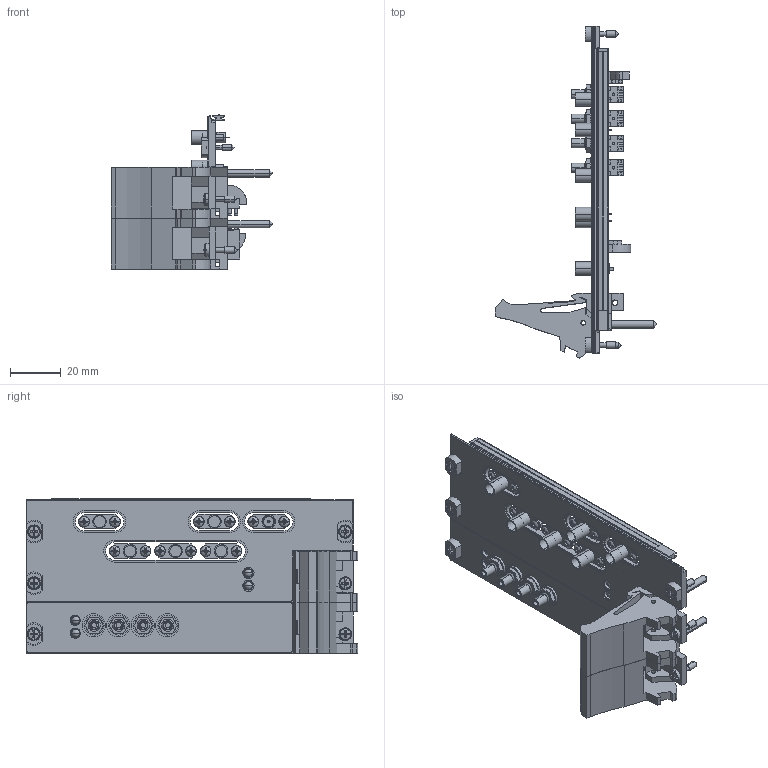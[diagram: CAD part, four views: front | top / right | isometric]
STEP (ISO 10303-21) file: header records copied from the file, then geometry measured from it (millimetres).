
FILE_DESCRIPTION((''),'2;1');
FILE_NAME('CU_PXIE-5672','2009-12-31T',('jjorden'),(''),'PRO/ENGINEER BY PARAMETRIC TECHNOLOGY CORPORATION, 2006080','PRO/ENGINEER BY PARAMETRIC TECHNOLOGY CORPORATION, 2006080','');
FILE_SCHEMA(('CONFIG_CONTROL_DESIGN'));
Products named in the file (1): CU_PXIE-5672
Bounding box: 63.65 x 130.52 x 60.65 mm (x, y, z)
Volume: 40496.2 mm3; surface area: 40774.6 mm2
Topology: 11 solids, 11 shells, 2195 faces, 5778 edges, 3428 vertices
Faces by surface type: plane 1334, cylinder 485, bspline 240, cone 56, sphere 44, torus 36
Entity records: 71600 total; most frequent: CARTESIAN_POINT 19196, ORIENTED_EDGE 11036, DIRECTION 10429, EDGE_CURVE 5518, VERTEX_POINT 3656, VECTOR 3525, LINE 3525, AXIS2_PLACEMENT_3D 3452
